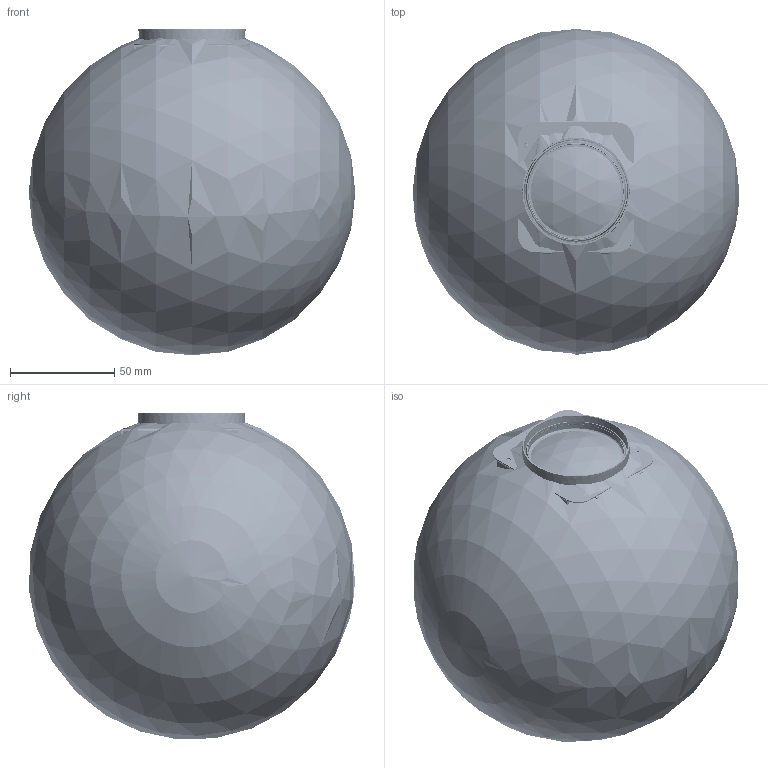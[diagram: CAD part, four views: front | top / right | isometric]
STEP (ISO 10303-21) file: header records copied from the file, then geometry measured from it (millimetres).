
FILE_DESCRIPTION((''),'2;1');
FILE_NAME('MODULE_ASSY_36X_ASM','2020-08-27T',('USER'),(''),'PRO/ENGINEER BY PARAMETRIC TECHNOLOGY CORPORATION, 2011410','PRO/ENGINEER BY PARAMETRIC TECHNOLOGY CORPORATION, 2011410','');
FILE_SCHEMA(('CONFIG_CONTROL_DESIGN'));
Products named in the file (47): _X2_5B9E4F53_X0_1; _X2_5B9E4F53_X0_2; _X2_5B9E4F53_X0_3; _X2_5B9E4F53_X0_4; _X2_5B9E4F53_X0_5; _X2_5B9E4F53_X0_6; _X2_5B9E4F53_X0_7-12324; _X2_5B9E4F53_X0_7-12325; _X2_5B9E4F53_X0_8; _X2_5B9E4F53_X0_9; _X2_5B9E4F53_X0_10; _X2_5B9E4F53_X0_11; _X2_5B9E4F53_X0_12; _X2_5B9E4F53_X0_13; _X2_5B9E4F53_X0_14; _X2_5B9E4F53_X0_15; _X2_5B9E4F53_X0_16; _X2_5B9E4F53_X0_17; _X2_5B9E4F53_X0_18; _X2_5B9E4F53_X0_19; _X2_5B9E4F53_X0_20; _X2_5B9E4F53_X0_21; _X2_5B9E4F53_X0_22; _X2_5B9E4F53_X0_23; _X2_5B9E4F53_X0_24; _X2_5B9E4F53_X0_25; _X2_5B9E4F53_X0_26; _X2_5B9E4F53_X0_27; _X2_5B9E4F53_X0_28; 1592M1-1012; 149200-1000_SHRINKWRAP_1_ASM; 35X_IPT_ASM; PCB_SPACER__; MAIN_PCB_; PRT0003_; CMOS_IMX264_265_392LQJ-C; SENSOR_PCB_ASSY__ASM; SENSOR_SPACER_SHEET; HD_SDI_CONNECTOR_SMALL_; SHEET__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
Assembly tree (58 placements, depth 4):
  MODULE_ASSY_36X_ASM
    35X_IPT_ASM
      149200-1000_SHRINKWRAP_1_ASM
        _X2_5B9E4F53_X0_1
        _X2_5B9E4F53_X0_2
        _X2_5B9E4F53_X0_3
        _X2_5B9E4F53_X0_4
        _X2_5B9E4F53_X0_5
        _X2_5B9E4F53_X0_6
        _X2_5B9E4F53_X0_7-12324
        _X2_5B9E4F53_X0_7-12325
        _X2_5B9E4F53_X0_8
        _X2_5B9E4F53_X0_9
        _X2_5B9E4F53_X0_10
        _X2_5B9E4F53_X0_11
        _X2_5B9E4F53_X0_12
        _X2_5B9E4F53_X0_13
        _X2_5B9E4F53_X0_14
        _X2_5B9E4F53_X0_15
        _X2_5B9E4F53_X0_16
        _X2_5B9E4F53_X0_17
        _X2_5B9E4F53_X0_18
        _X2_5B9E4F53_X0_19
        _X2_5B9E4F53_X0_20
        _X2_5B9E4F53_X0_21
        _X2_5B9E4F53_X0_22
        _X2_5B9E4F53_X0_23
        _X2_5B9E4F53_X0_24
        _X2_5B9E4F53_X0_25
        _X2_5B9E4F53_X0_26
        _X2_5B9E4F53_X0_27
        _X2_5B9E4F53_X0_28
        1592M1-1012
    PCB_SPACER__
    MAIN_PCB_
    SENSOR_PCB_ASSY__ASM
      PRT0003_
      CMOS_IMX264_265_392LQJ-C
    SENSOR_SPACER_SHEET
    HD_SDI_CONNECTOR_SMALL_
    SHEET__
    CHASSIS_ASM
      323037090_CHASSIS_TOP
      TS_LH_M2X4_TYPE2  x6
      MS_LH_M2X3  x3
      MS_LH_M2X4  x6
      323037095_CHASSIS_BOTTOM
Bounding box: 157 x 156.68 x 156.92 mm (x, y, z)
Surface area: 264236.2 mm2 (no closed solid volume)
Topology: 0 solids, 0 shells, 4377 faces, 23445 edges, 23182 vertices
Faces by surface type: bspline 4042, torus 331, sphere 4
Entity records: 372550 total; most frequent: CARTESIAN_POINT 169352, DIRECTION 33931, TRIMMED_CURVE 28731, VECTOR 24417, LINE 24417, DEFINITIONAL_REPRESENTATION 21476, PCURVE 21476, COMPOSITE_CURVE_SEGMENT 21476
